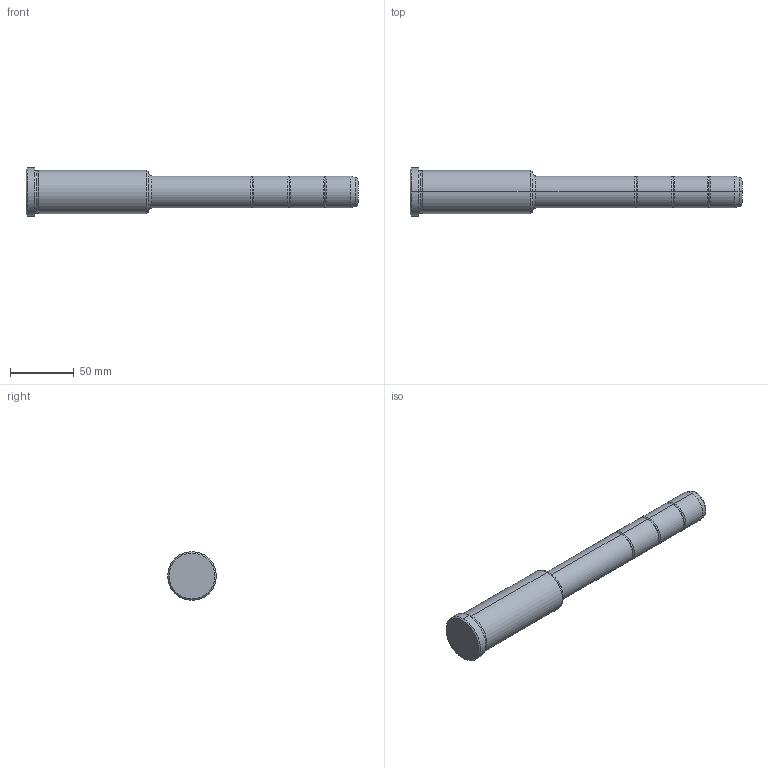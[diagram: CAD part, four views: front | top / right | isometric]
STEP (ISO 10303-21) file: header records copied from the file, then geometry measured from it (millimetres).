
FILE_DESCRIPTION(('CATIA V5 STEP Exchange'),'2;1');
FILE_NAME('C:\Users\Utente\Desktop\IO LAVORO\3D X SITO CF\X SITO\PLASTICA\351\351-25X96X260.stp','2021-09-07T11:57:37+00:00',('none'),('none'),'CATIA Version 5 Release 20 GA (IN-10)','CATIA V5 STEP AP203','none');
FILE_SCHEMA(('CONFIG_CONTROL_DESIGN'));
Length unit declared in the file: millimetre
Products named in the file (1): 351-25X96X260
Bounding box: 260 x 38 x 38 mm (x, y, z)
Volume: 168366.8 mm3; surface area: 25232.1 mm2
Topology: 1 solids, 1 shells, 42 faces, 118 edges, 80 vertices
Faces by surface type: torus 20, cylinder 12, cone 6, plane 4
Entity records: 1472 total; most frequent: CARTESIAN_POINT 353, ORIENTED_EDGE 236, DIRECTION 194, AXIS2_PLACEMENT_3D 135, EDGE_CURVE 118, CIRCLE 92, VERTEX_POINT 80, EDGE_LOOP 44
